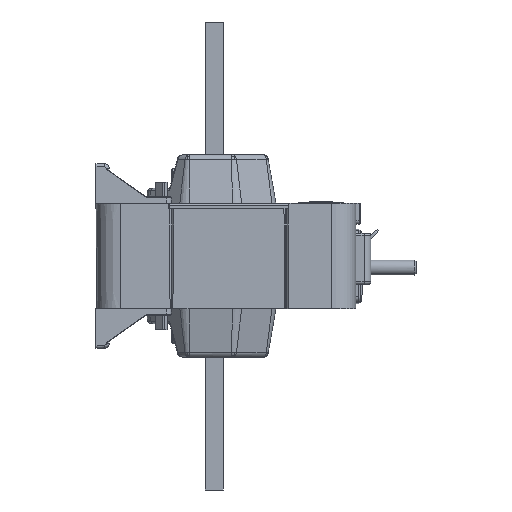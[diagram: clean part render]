
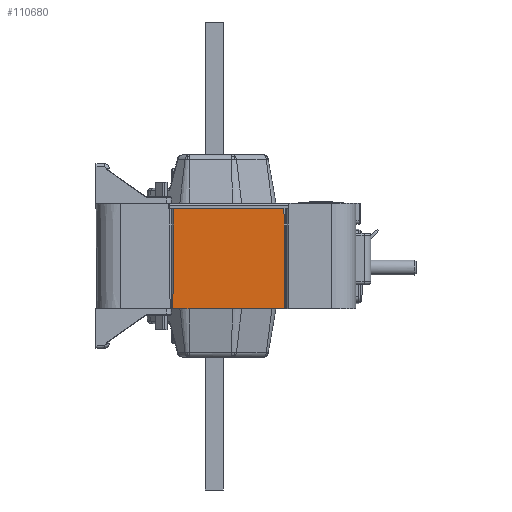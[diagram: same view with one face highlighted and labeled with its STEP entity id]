
A CAD part, left-side view. The second image highlights one B-rep face of the part: STEP entity #110680.
In plain terms, the highlighted planar face has unit normal (-1, 0, -0.009).
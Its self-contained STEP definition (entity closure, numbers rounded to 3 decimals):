
#108170=CARTESIAN_POINT('',(-42.917,12.217,
26.7));
#108180=VERTEX_POINT('',#108170);
#108210=CARTESIAN_POINT('',(-42.626,12.508,
-6.619));
#108220=DIRECTION('',(0.009,0.009,
-1.));
#108230=VECTOR('',#108220,1.);
#108240=LINE('',#108210,#108230);
#108250=CARTESIAN_POINT('',(-42.629,12.505,
-6.3));
#108260=VERTEX_POINT('',#108250);
#108270=EDGE_CURVE('',#108180,#108260,#108240,.T.);
#110380=CARTESIAN_POINT('',(-42.917,-40.033,
26.7));
#110390=DIRECTION('',(-1.,0.,
-0.009));
#110400=DIRECTION('',(0.,1.,0.));
#110410=AXIS2_PLACEMENT_3D('',#110380,#110390,#110400);
#110420=PLANE('',#110410);
#110430=CARTESIAN_POINT('',(-42.917,22.38,
26.7));
#110440=DIRECTION('',(0.,-1.,0.));
#110450=VECTOR('',#110440,1.);
#110460=LINE('',#110430,#110450);
#110470=CARTESIAN_POINT('',(-42.917,-24.283,
26.7));
#110480=VERTEX_POINT('',#110470);
#110490=EDGE_CURVE('',#108180,#110480,#110460,.T.);
#110500=ORIENTED_EDGE('',*,*,#110490,.F.);
#110510=CARTESIAN_POINT('',(-42.631,-24.569,
-6.123));
#110520=DIRECTION('',(0.009,-0.009,
-1.));
#110530=VECTOR('',#110520,1.);
#110540=LINE('',#110510,#110530);
#110550=CARTESIAN_POINT('',(-42.629,-24.571,
-6.3));
#110560=VERTEX_POINT('',#110550);
#110570=EDGE_CURVE('',#110480,#110560,#110540,.T.);
#110580=ORIENTED_EDGE('',*,*,#110570,.F.);
#110590=CARTESIAN_POINT('',(-42.629,22.38,
-6.3));
#110600=DIRECTION('',(0.,-1.,0.));
#110610=VECTOR('',#110600,1.);
#110620=LINE('',#110590,#110610);
#110630=EDGE_CURVE('',#108260,#110560,#110620,.T.);
#110640=ORIENTED_EDGE('',*,*,#110630,.T.);
#110650=ORIENTED_EDGE('',*,*,#108270,.T.);
#110660=EDGE_LOOP('',(#110650,#110640,#110580,#110500));
#110670=FACE_OUTER_BOUND('',#110660,.T.);
#110680=ADVANCED_FACE('',(#110670),#110420,.T.);
